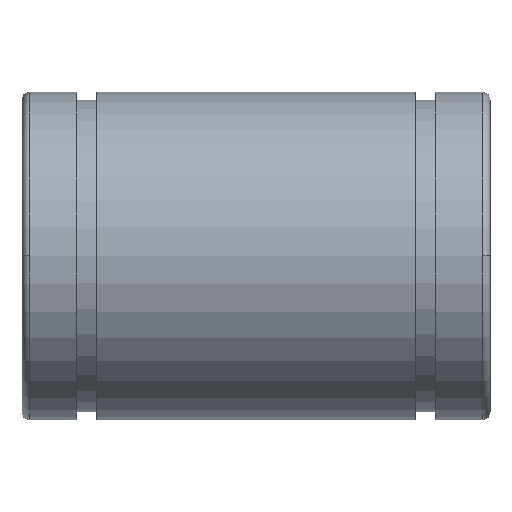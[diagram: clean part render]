
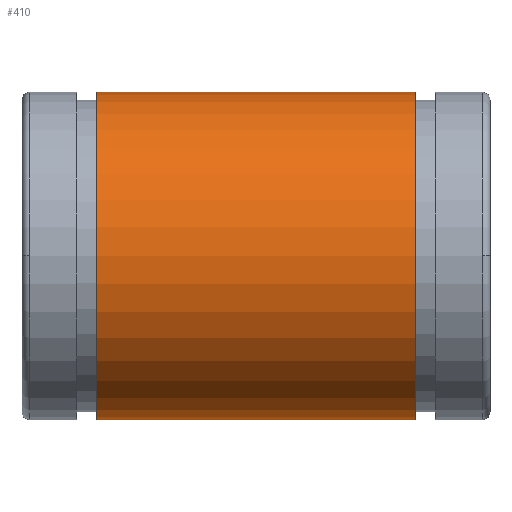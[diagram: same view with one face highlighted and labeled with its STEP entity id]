
A CAD part, top view. The second image highlights one B-rep face of the part: STEP entity #410.
In plain terms, the highlighted cylindrical face has radius 10.5 mm (diameter 21 mm), a partial arc.
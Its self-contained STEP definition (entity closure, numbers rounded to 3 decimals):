
#350 = PLANE('',#351);
#351 = AXIS2_PLACEMENT_3D('',#352,#353,#354);
#352 = CARTESIAN_POINT('',(10.2,10.25,0.));
#353 = DIRECTION('',(1.,0.,0.));
#354 = DIRECTION('',(-0.,1.,0.));
#410 = ADVANCED_FACE('',(#411),#425,.T.);
#411 = FACE_BOUND('',#412,.T.);
#412 = EDGE_LOOP('',(#413,#448,#481,#504));
#413 = ORIENTED_EDGE('',*,*,#414,.F.);
#414 = EDGE_CURVE('',#415,#417,#419,.T.);
#415 = VERTEX_POINT('',#416);
#416 = CARTESIAN_POINT('',(-10.2,10.5,0.));
#417 = VERTEX_POINT('',#418);
#418 = CARTESIAN_POINT('',(10.2,10.5,0.));
#419 = SURFACE_CURVE('',#420,(#424,#436),.PCURVE_S1.);
#420 = LINE('',#421,#422);
#421 = CARTESIAN_POINT('',(0.,10.5,0.));
#422 = VECTOR('',#423,1.);
#423 = DIRECTION('',(1.,0.,0.));
#424 = PCURVE('',#425,#430);
#425 = CYLINDRICAL_SURFACE('',#426,10.5);
#426 = AXIS2_PLACEMENT_3D('',#427,#428,#429);
#427 = CARTESIAN_POINT('',(0.,0.,0.));
#428 = DIRECTION('',(1.,0.,0.));
#429 = DIRECTION('',(-0.,1.,0.));
#430 = DEFINITIONAL_REPRESENTATION('',(#431),#435);
#431 = LINE('',#432,#433);
#432 = CARTESIAN_POINT('',(0.,0.));
#433 = VECTOR('',#434,1.);
#434 = DIRECTION('',(0.,1.));
#435 = ( GEOMETRIC_REPRESENTATION_CONTEXT(2) 
PARAMETRIC_REPRESENTATION_CONTEXT() REPRESENTATION_CONTEXT('2D SPACE',''
  ) );
#436 = PCURVE('',#437,#442);
#437 = CYLINDRICAL_SURFACE('',#438,10.5);
#438 = AXIS2_PLACEMENT_3D('',#439,#440,#441);
#439 = CARTESIAN_POINT('',(0.,0.,0.));
#440 = DIRECTION('',(1.,0.,0.));
#441 = DIRECTION('',(-0.,1.,0.));
#442 = DEFINITIONAL_REPRESENTATION('',(#443),#447);
#443 = LINE('',#444,#445);
#444 = CARTESIAN_POINT('',(6.283,0.));
#445 = VECTOR('',#446,1.);
#446 = DIRECTION('',(0.,1.));
#447 = ( GEOMETRIC_REPRESENTATION_CONTEXT(2) 
PARAMETRIC_REPRESENTATION_CONTEXT() REPRESENTATION_CONTEXT('2D SPACE',''
  ) );
#448 = ORIENTED_EDGE('',*,*,#449,.T.);
#449 = EDGE_CURVE('',#415,#450,#452,.T.);
#450 = VERTEX_POINT('',#451);
#451 = CARTESIAN_POINT('',(-10.2,-10.5,0.));
#452 = SURFACE_CURVE('',#453,(#458,#465),.PCURVE_S1.);
#453 = CIRCLE('',#454,10.5);
#454 = AXIS2_PLACEMENT_3D('',#455,#456,#457);
#455 = CARTESIAN_POINT('',(-10.2,0.,0.));
#456 = DIRECTION('',(1.,0.,0.));
#457 = DIRECTION('',(-0.,1.,0.));
#458 = PCURVE('',#425,#459);
#459 = DEFINITIONAL_REPRESENTATION('',(#460),#464);
#460 = LINE('',#461,#462);
#461 = CARTESIAN_POINT('',(0.,-10.2));
#462 = VECTOR('',#463,1.);
#463 = DIRECTION('',(1.,0.));
#464 = ( GEOMETRIC_REPRESENTATION_CONTEXT(2) 
PARAMETRIC_REPRESENTATION_CONTEXT() REPRESENTATION_CONTEXT('2D SPACE',''
  ) );
#465 = PCURVE('',#466,#471);
#466 = PLANE('',#467);
#467 = AXIS2_PLACEMENT_3D('',#468,#469,#470);
#468 = CARTESIAN_POINT('',(-10.2,10.25,0.));
#469 = DIRECTION('',(-1.,-0.,0.));
#470 = DIRECTION('',(0.,-1.,-0.));
#471 = DEFINITIONAL_REPRESENTATION('',(#472),#480);
#472 = ( BOUNDED_CURVE() B_SPLINE_CURVE(2,(#473,#474,#475,#476,#477,#478
,#479),.UNSPECIFIED.,.T.,.F.) B_SPLINE_CURVE_WITH_KNOTS((1,2,2,2,2,1),(
    -2.094,0.,2.094,4.189,6.283,
8.378),.UNSPECIFIED.) CURVE() GEOMETRIC_REPRESENTATION_ITEM() 
RATIONAL_B_SPLINE_CURVE((1.,0.5,1.,0.5,1.,0.5,1.)) REPRESENTATION_ITEM(
  '') );
#473 = CARTESIAN_POINT('',(-0.25,0.));
#474 = CARTESIAN_POINT('',(-0.25,18.187));
#475 = CARTESIAN_POINT('',(15.5,9.093));
#476 = CARTESIAN_POINT('',(31.25,0.));
#477 = CARTESIAN_POINT('',(15.5,-9.093));
#478 = CARTESIAN_POINT('',(-0.25,-18.187));
#479 = CARTESIAN_POINT('',(-0.25,0.));
#480 = ( GEOMETRIC_REPRESENTATION_CONTEXT(2) 
PARAMETRIC_REPRESENTATION_CONTEXT() REPRESENTATION_CONTEXT('2D SPACE',''
  ) );
#481 = ORIENTED_EDGE('',*,*,#482,.F.);
#482 = EDGE_CURVE('',#483,#450,#485,.T.);
#483 = VERTEX_POINT('',#484);
#484 = CARTESIAN_POINT('',(10.2,-10.5,0.));
#485 = SURFACE_CURVE('',#486,(#490,#497),.PCURVE_S1.);
#486 = LINE('',#487,#488);
#487 = CARTESIAN_POINT('',(0.,-10.5,0.));
#488 = VECTOR('',#489,1.);
#489 = DIRECTION('',(-1.,-0.,-0.));
#490 = PCURVE('',#425,#491);
#491 = DEFINITIONAL_REPRESENTATION('',(#492),#496);
#492 = LINE('',#493,#494);
#493 = CARTESIAN_POINT('',(3.142,0.));
#494 = VECTOR('',#495,1.);
#495 = DIRECTION('',(0.,-1.));
#496 = ( GEOMETRIC_REPRESENTATION_CONTEXT(2) 
PARAMETRIC_REPRESENTATION_CONTEXT() REPRESENTATION_CONTEXT('2D SPACE',''
  ) );
#497 = PCURVE('',#437,#498);
#498 = DEFINITIONAL_REPRESENTATION('',(#499),#503);
#499 = LINE('',#500,#501);
#500 = CARTESIAN_POINT('',(3.142,0.));
#501 = VECTOR('',#502,1.);
#502 = DIRECTION('',(0.,-1.));
#503 = ( GEOMETRIC_REPRESENTATION_CONTEXT(2) 
PARAMETRIC_REPRESENTATION_CONTEXT() REPRESENTATION_CONTEXT('2D SPACE',''
  ) );
#504 = ORIENTED_EDGE('',*,*,#505,.F.);
#505 = EDGE_CURVE('',#417,#483,#506,.T.);
#506 = SURFACE_CURVE('',#507,(#512,#519),.PCURVE_S1.);
#507 = CIRCLE('',#508,10.5);
#508 = AXIS2_PLACEMENT_3D('',#509,#510,#511);
#509 = CARTESIAN_POINT('',(10.2,0.,0.));
#510 = DIRECTION('',(1.,0.,0.));
#511 = DIRECTION('',(-0.,1.,0.));
#512 = PCURVE('',#425,#513);
#513 = DEFINITIONAL_REPRESENTATION('',(#514),#518);
#514 = LINE('',#515,#516);
#515 = CARTESIAN_POINT('',(0.,10.2));
#516 = VECTOR('',#517,1.);
#517 = DIRECTION('',(1.,0.));
#518 = ( GEOMETRIC_REPRESENTATION_CONTEXT(2) 
PARAMETRIC_REPRESENTATION_CONTEXT() REPRESENTATION_CONTEXT('2D SPACE',''
  ) );
#519 = PCURVE('',#350,#520);
#520 = DEFINITIONAL_REPRESENTATION('',(#521),#525);
#521 = CIRCLE('',#522,10.5);
#522 = AXIS2_PLACEMENT_2D('',#523,#524);
#523 = CARTESIAN_POINT('',(-10.25,0.));
#524 = DIRECTION('',(1.,0.));
#525 = ( GEOMETRIC_REPRESENTATION_CONTEXT(2) 
PARAMETRIC_REPRESENTATION_CONTEXT() REPRESENTATION_CONTEXT('2D SPACE',''
  ) );
